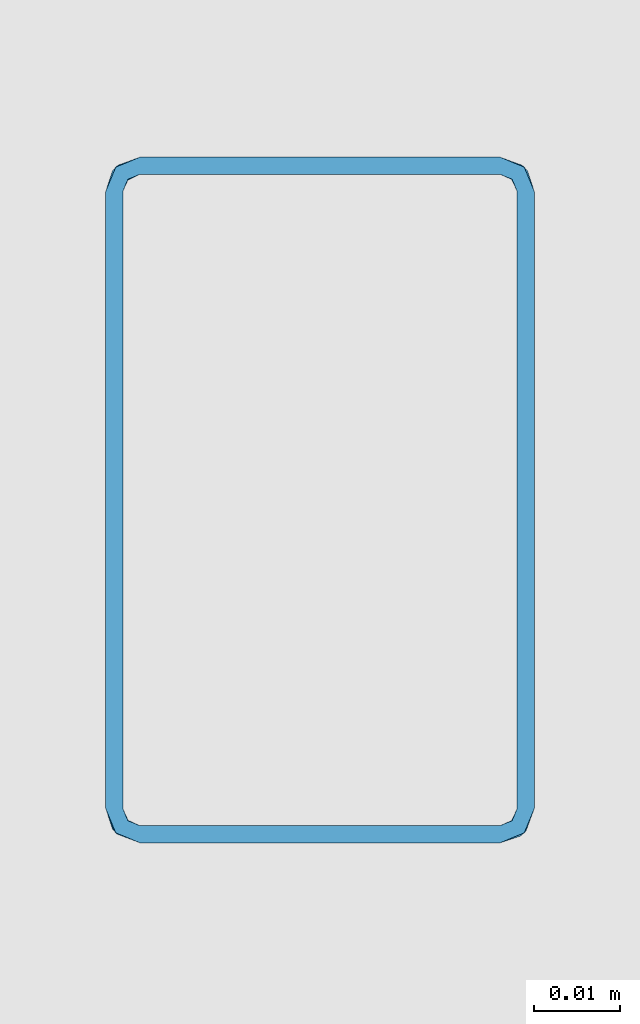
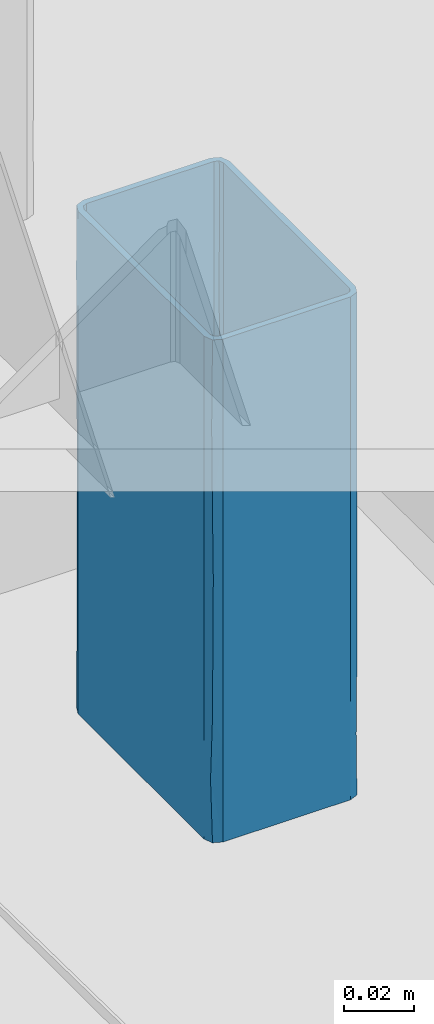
# One storey, part 152 of 186: 1 beam.
"""IFC4X3_ADD2 building model written with IfcOpenShell, lengths in millimetres."""

import ifcopenshell
import ifcopenshell.guid

model = None  # the IFC model being written
_history = None  # IfcOwnerHistory: only IFC2X3 demands one
_inside = {}  # id of a spatial element -> (the spatial element, [elements in it])
_under = {}  # id of a project, library or spatial element -> (it, [spatial elements below it])
_declared = {}  # id of a project -> (the project, [libraries it declares])
_typed = {}  # id of a type object -> (the type object, [elements of that type])
_made_of = {}  # id of a material, layer set ... -> (it, [elements and type objects made of it])


def new_model(schema):
    """Start an empty IFC model of exactly this schema.

    Asked for "IFC4X3", IfcOpenShell would pick the latest addendum, in which some entities
    have other attributes; the version numbers below select the first issue.
    IFC2X3 requires an IfcOwnerHistory on every rooted entity: one is made here for all.
    """
    global model, _history
    if schema == "IFC4X3":
        model = ifcopenshell.file(schema_version=(4, 3, 0, 0))
    else:
        model = ifcopenshell.file(schema=schema)
    _inside.clear()
    _under.clear()
    _declared.clear()
    _typed.clear()
    _made_of.clear()
    _history = None
    if model.schema == "IFC2X3":
        org = make("IfcOrganization", Name="unknown")
        user = make(
            "IfcPersonAndOrganization",
            ThePerson=make("IfcPerson", FamilyName="unknown"),
            TheOrganization=org,
        )
        app = make(
            "IfcApplication",
            ApplicationDeveloper=org,
            Version="unknown",
            ApplicationFullName="unknown",
            ApplicationIdentifier="unknown",
        )
        _history = make(
            "IfcOwnerHistory",
            OwningUser=user,
            OwningApplication=app,
            ChangeAction="ADDED",
            CreationDate=0,
        )
    return model


def make(cls, **values):
    """One entity of the class cls with the attributes given. An attribute that is None is left unset."""
    return model.create_entity(
        cls, **{name: value for name, value in values.items() if value is not None}
    )


def rooted(cls, **values):
    """An entity with a GlobalId (a new one), such as an element, a storey or a relation."""
    return make(cls, GlobalId=ifcopenshell.guid.new(), OwnerHistory=_history, **values)


def si_unit(unit_type, name, prefix=None):
    """IfcSIUnit, for example si_unit("LENGTHUNIT", "METRE", prefix="MILLI")."""
    return make("IfcSIUnit", UnitType=unit_type, Prefix=prefix, Name=name)


def assignment(units):
    """IfcUnitAssignment: the units of a project."""
    return None if units is None else make("IfcUnitAssignment", Units=units)


def point(xyz):
    """IfcCartesianPoint."""
    return None if xyz is None else make("IfcCartesianPoint", Coordinates=xyz)


def direction(xyz):
    """IfcDirection."""
    return None if xyz is None else make("IfcDirection", DirectionRatios=xyz)


def frame(location, z_axis=None, x_axis=None):
    """IfcAxis2Placement3D, a coordinate frame: its origin and axes. An axis left out is left unset."""
    return make(
        "IfcAxis2Placement3D",
        Location=point(location),
        Axis=direction(z_axis),
        RefDirection=direction(x_axis),
    )


def origin_with_axes():
    """The frame at (0, 0, 0) with the z axis (0, 0, 1) and the x axis (1, 0, 0) written out."""
    return frame((0.0, 0.0, 0.0), z_axis=(0.0, 0.0, 1.0), x_axis=(1.0, 0.0, 0.0))


def place(relative_to, where):
    """IfcLocalPlacement: puts the frame where relative to a parent placement (None: the world)."""
    return make(
        "IfcLocalPlacement", PlacementRelTo=relative_to, RelativePlacement=where
    )


def context(
    kind, dimensions, precision=None, world=None, true_north=None, identifier=None
):
    """IfcGeometricRepresentationContext, for example the 3D "Model" context."""
    return make(
        "IfcGeometricRepresentationContext",
        ContextIdentifier=identifier,
        ContextType=kind,
        CoordinateSpaceDimension=dimensions,
        Precision=precision,
        WorldCoordinateSystem=world,
        TrueNorth=true_north,
    )


def subcontext(parent, identifier, kind, view, scale=None):
    """IfcGeometricRepresentationSubContext, for example "Body" below "Model"."""
    return make(
        "IfcGeometricRepresentationSubContext",
        ContextIdentifier=identifier,
        ContextType=kind,
        ParentContext=parent,
        TargetScale=scale,
        TargetView=view,
    )


def project(units=None, contexts=None):
    """IfcProject with its units and contexts."""
    return rooted(
        "IfcProject",
        Name="project",
        RepresentationContexts=contexts,
        UnitsInContext=assignment(units),
    )


def spatial(cls, under=None, at=None, **own):
    """A site, building, storey or space (cls), placed at a placement, below another one or the project."""
    s = rooted(cls, ObjectPlacement=at, **own)
    if under is not None:
        _under.setdefault(under.id(), (under, []))[1].append(s)
    return s


def point_list(points):
    """IfcCartesianPointList2D or 3D."""
    cls = (
        "IfcCartesianPointList2D" if len(points[0]) == 2 else "IfcCartesianPointList3D"
    )
    return make(cls, CoordList=points)


def polygons(points, faces, closed=None, point_numbers=None):
    """IfcPolygonalFaceSet: a face is its outer loop, then its inner loops; points numbered from 1."""
    made = []
    for loops in faces:
        if len(loops) == 1:
            made.append(make("IfcIndexedPolygonalFace", CoordIndex=loops[0]))
        else:
            made.append(
                make(
                    "IfcIndexedPolygonalFaceWithVoids",
                    CoordIndex=loops[0],
                    InnerCoordIndices=loops[1:],
                )
            )
    return make(
        "IfcPolygonalFaceSet",
        Coordinates=point_list(points),
        Closed=closed,
        Faces=made,
        PnIndex=point_numbers,
    )


def shape(context_of_items, identifier, shape_type, items):
    """IfcShapeRepresentation: the items that make up one representation, for example the "Body"."""
    return make(
        "IfcShapeRepresentation",
        ContextOfItems=context_of_items,
        RepresentationIdentifier=identifier,
        RepresentationType=shape_type,
        Items=items,
    )


def made_of(thing, what):
    """Note that an element or type object is made of a material, layer set ...; save() writes the relation."""
    if what is not None:
        _made_of.setdefault(what.id(), (what, []))[1].append(thing)
    return thing


def element(
    cls,
    number,
    at=None,
    inside=None,
    cuts=None,
    type_object=None,
    material=None,
    context=None,
    identifier="Body",
    shape_type=None,
    held_by="IfcProductDefinitionShape",
    body=None,
    shapes=None,
    **own,
):
    """One element of the class cls, such as IfcWall. Its Tag is "e" and its number.

    at: its placement. inside: the storey or other place that contains it. cuts: it is an
    opening in that element (IfcRelVoidsElement). A single representation is given by context,
    identifier, shape_type and body (its items); several are given by shapes. held_by: the class
    of the entity that holds the representations. save() writes the other relations.
    """
    e = rooted(cls, Tag="e%d" % number, ObjectPlacement=at, **own)
    if body is not None:
        shapes = [shape(context, identifier, shape_type, body)]
    if shapes is not None:
        e.Representation = make(held_by, Representations=shapes)
    if inside is not None:
        _inside.setdefault(inside.id(), (inside, []))[1].append(e)
    if cuts is not None:
        rooted(
            "IfcRelVoidsElement", RelatingBuildingElement=cuts, RelatedOpeningElement=e
        )
    if type_object is not None:
        _typed.setdefault(type_object.id(), (type_object, []))[1].append(e)
    return made_of(e, material)


def aggregate(whole, parts):
    """IfcRelAggregates: a whole, such as a stair, and the parts it consists of."""
    return rooted("IfcRelAggregates", RelatingObject=whole, RelatedObjects=parts)


def save(model, path):
    """Write the relations noted so far, then the file.

    IfcRelAggregates (storeys below a building ...), IfcRelContainedInSpatialStructure (elements
    in a storey), IfcRelDefinesByType, IfcRelAssociatesMaterial and IfcRelDeclares: one each for
    every whole, place, type object, material and project.
    """
    for whole, parts in _under.values():
        aggregate(whole, parts)
    for where, things in _inside.values():
        rooted(
            "IfcRelContainedInSpatialStructure",
            RelatedElements=things,
            RelatingStructure=where,
        )
    for kind, things in _typed.values():
        rooted("IfcRelDefinesByType", RelatedObjects=things, RelatingType=kind)
    for what, things in _made_of.values():
        rooted("IfcRelAssociatesMaterial", RelatedObjects=things, RelatingMaterial=what)
    for by, libraries in _declared.values():
        rooted("IfcRelDeclares", RelatingContext=by, RelatedDefinitions=libraries)
    model.write(path)


model = new_model("IFC4X3_ADD2")

# Units and contexts
model_context = context("Model", 3, precision=1e-05, world=origin_with_axes(), true_north=direction((0.0, 1.0)))
body_context = subcontext(model_context, "Body", "Model", "MODEL_VIEW")
ifc_project = project(units=[si_unit("LENGTHUNIT", "METRE", prefix="MILLI"), si_unit("AREAUNIT", "SQUARE_METRE"), si_unit("VOLUMEUNIT", "CUBIC_METRE"), si_unit("PLANEANGLEUNIT", "RADIAN"), si_unit("TIMEUNIT", "SECOND"), si_unit("MASSUNIT", "GRAM")], contexts=[model_context])

# Site, building, storey
site_placement = place(None, origin_with_axes())
site = spatial("IfcSite", under=ifc_project, at=site_placement, Name="Site", CompositionType="ELEMENT")
building_placement = place(site_placement, origin_with_axes())
building = spatial("IfcBuilding", under=site, at=building_placement, Name="IFC Building Story")
storey_placement = place(building_placement, frame((0.0, 0.0, 4370.0), z_axis=(0.0, 0.0, 1.0), x_axis=(1.0, 0.0, 0.0)))
storey = spatial("IfcBuildingStorey", under=building, at=storey_placement, Name="ETAGE 10 (1)", Elevation=4370.0)

# Beam
beam_placement = place(storey_placement, frame((0.0, 0.0, -4370.0), z_axis=(0.0, 0.0, 1.0), x_axis=(1.0, 0.0, 0.0)))
element("IfcBeam", 1, at=beam_placement, inside=storey, Name="PS9", ObjectType="K50*80*2", context=body_context, shape_type="Tessellation", body=[
    polygons([(40033.18902108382, -161.029537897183, 7310.001152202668), (40031.18902108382, -161.029537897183, 7310.001152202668), (40033.77480752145, -162.4437514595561, 7310.001152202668), (40031.18902108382, -89.02953789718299, 7310.001152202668), (40033.18902108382, -89.02953789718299, 7310.001152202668), (40033.77480752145, -87.61532433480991, 7310.001152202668), (40032.36059395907, -86.20111077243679, 7310.001152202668), (40035.18902108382, -85.02953789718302, 7310.001152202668), (40035.18902108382, -87.029537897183, 7310.001152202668), (40077.18902108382, -87.029537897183, 7310.001152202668), (40077.18902108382, -85.02953789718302, 7310.001152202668), (40078.6032346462, -87.61532433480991, 7310.001152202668), (40080.01744820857, -86.20111077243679, 7310.001152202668), (40081.18902108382, -89.02953789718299, 7310.001152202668), (40079.18902108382, -89.02953789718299, 7310.001152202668), (40079.18902108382, -161.029537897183, 7310.001152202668), (40081.18902108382, -161.029537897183, 7310.001152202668), (40078.6032346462, -162.4437514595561, 7310.001152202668), (40080.01744820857, -163.8579650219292, 7310.001152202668), (40077.18902108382, -165.029537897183, 7310.001152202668), (40077.18902108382, -163.029537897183, 7310.001152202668), (40035.18902108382, -165.029537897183, 7310.001152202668), (40035.18902108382, -163.029537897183, 7310.001152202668), (40032.36059395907, -163.8579650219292, 7310.001152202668), (40079.18902108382, -161.029537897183, 7134.601152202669), (40081.18902108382, -161.029537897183, 7134.601152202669), (40078.6032346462, -162.4437514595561, 7134.601152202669), (40081.18902108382, -89.02953789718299, 7134.601152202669), (40079.18902108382, -89.02953789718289, 7134.601152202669), (40078.6032346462, -87.61532433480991, 7134.601152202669), (40080.01744820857, -86.20111077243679, 7134.601152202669), (40077.18902108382, -85.02953789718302, 7134.601152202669), (40077.18902108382, -87.029537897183, 7134.601152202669), (40035.18902108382, -87.029537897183, 7134.601152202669), (40035.18902108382, -85.02953789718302, 7134.601152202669), (40033.77480752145, -87.61532433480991, 7134.601152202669), (40032.36059395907, -86.20111077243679, 7134.601152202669), (40031.18902108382, -89.02953789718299, 7134.601152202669), (40033.18902108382, -89.02953789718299, 7134.601152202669), (40033.18902108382, -161.029537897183, 7134.601152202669), (40031.18902108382, -161.029537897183, 7134.601152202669), (40033.77480752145, -162.4437514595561, 7134.601152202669), (40032.36059395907, -163.8579650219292, 7134.601152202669), (40035.18902108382, -165.029537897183, 7134.601152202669), (40035.18902108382, -163.029537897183, 7134.601152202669), (40077.18902108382, -165.029537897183, 7134.601152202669), (40077.18902108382, -163.029537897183, 7134.601152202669), (40080.01744820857, -163.8579650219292, 7134.601152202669), (40081.18902108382, -161.029537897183, 7292.542629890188), (40081.18902108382, -161.029537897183, 7266.151152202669), (40081.18902108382, -161.029537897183, 7244.226152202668), (40081.18902108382, -161.029537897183, 7222.30115220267), (40081.18902108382, -161.029537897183, 7200.376152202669), (40081.18902108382, -161.029537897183, 7178.451152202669), (40081.18902108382, -161.029537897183, 7152.05967451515), (40081.18902108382, -89.02953789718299, 7169.518198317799), (40081.18902108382, -89.02953789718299, 7187.384107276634), (40081.18902108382, -89.02953789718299, 7213.775584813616), (40081.18902108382, -89.02953789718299, 7240.1670623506), (40081.18902108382, -89.02953789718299, 7257.625584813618), (40081.18902108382, -89.02953789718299, 7275.084107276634), (40080.10473245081, -86.2911757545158, 7178.451154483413), (40077.18902108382, -85.02953789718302, 7200.376152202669), (40079.88767482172, -86.0770359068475, 7211.338654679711), (40077.18902108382, -85.02953789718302, 7178.451152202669), (40080.412865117, -86.66166339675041, 7156.44724682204), (40077.18902108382, -85.02953789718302, 7152.059675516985), (40079.83891352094, -86.0331951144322, 7279.346891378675), (40077.18902108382, -85.02953789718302, 7222.30115220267), (40077.18902108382, -85.02953789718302, 7292.542628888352), (40079.82499126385, -86.0209400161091, 7235.928986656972), (40079.7718907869, -85.97523206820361, 7257.639654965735), (40077.18902108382, -85.02953789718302, 7266.151152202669), (40077.18902108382, -85.02953789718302, 7244.226152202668), (40035.18902108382, -85.02953789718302, 7152.05967493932), (40035.18902108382, -85.02953789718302, 7178.451152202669), (40035.18902108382, -85.02953789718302, 7200.376152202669), (40035.18902108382, -85.02953789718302, 7222.30115220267), (40035.18902108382, -85.02953789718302, 7244.226152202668), (40035.18902108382, -85.02953789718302, 7266.151152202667), (40035.18902108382, -85.02953789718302, 7292.542629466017), (40031.18902108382, -89.02953789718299, 7169.518197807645), (40032.53912872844, -86.0331950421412, 7165.255417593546), (40032.27330972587, -86.2911757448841, 7266.151153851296), (40031.96517708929, -86.66166334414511, 7288.155059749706), (40032.49036732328, -86.0770359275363, 7233.263654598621), (40031.18902108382, -89.02953789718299, 7257.218197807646), (40031.18902108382, -89.02953789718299, 7275.084106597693), (40032.55305081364, -86.0209400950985, 7208.673324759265), (40031.18902108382, -89.02953789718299, 7204.435243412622), (40031.18902108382, -89.02953789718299, 7230.826720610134), (40031.18902108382, -89.02953789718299, 7186.976720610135), (40032.60615109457, -85.9752323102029, 7186.96265531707), (40031.18902108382, -161.029537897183, 7169.518197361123), (40031.18902108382, -161.029537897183, 7195.909674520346), (40031.18902108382, -161.029537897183, 7222.30115220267), (40031.18902108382, -161.029537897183, 7244.226152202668), (40031.18902108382, -161.029537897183, 7266.151152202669), (40031.18902108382, -161.029537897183, 7292.542629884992), (40032.19267832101, -163.6794303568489, 7279.346891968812), (40032.33750844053, -163.8346895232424, 7252.757770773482), (40035.18902108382, -165.029537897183, 7275.084106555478), (40032.36059383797, -163.8579649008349, 7178.451156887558), (40031.97546159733, -163.4113513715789, 7156.526155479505), (40035.18902108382, -165.029537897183, 7169.518197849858), (40035.18902108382, -165.029537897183, 7187.384105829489), (40032.53484653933, -164.0220882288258, 7226.971325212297), (40032.44217950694, -163.9372623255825, 7202.816801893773), (40035.18902108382, -165.029537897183, 7213.775584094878), (40035.18902108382, -165.029537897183, 7240.167060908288), (40077.18902108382, -165.029537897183, 7169.518197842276), (40077.18902108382, -165.029537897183, 7187.38410656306), (40077.18902108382, -165.029537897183, 7213.775583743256), (40077.18902108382, -165.029537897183, 7240.167060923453), (40077.18902108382, -165.029537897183, 7257.625583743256), (40077.18902108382, -165.029537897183, 7275.084106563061), (40079.92738319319, -163.9452492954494, 7178.451154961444), (40080.141523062, -163.7281916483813, 7211.338655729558), (40079.55689557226, -164.2533819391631, 7156.447247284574), (40080.18536385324, -163.679430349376, 7279.346891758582), (40080.19761894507, -163.6655080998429, 7235.928987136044), (40080.24332688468, -163.6124076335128, 7257.639655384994), (40077.18902108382, -163.029537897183, 7260.620992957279), (40078.60323460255, -162.4437515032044, 7266.79351382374), (40078.60323461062, -162.4437514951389, 7253.588146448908), (40078.60803615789, -162.4389335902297, 7166.185490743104), (40078.68447855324, -162.3575465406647, 7153.118713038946), (40077.18902108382, -163.029537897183, 7153.761072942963), (40079.18902108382, -161.029537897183, 7200.376152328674), (40079.18902108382, -161.029537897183, 7189.413652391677), (40078.65155139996, -162.3937244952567, 7194.894904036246), (40078.64161718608, -162.4042977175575, 7229.758395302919), (40079.18902108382, -161.029537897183, 7222.30115220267), (40078.49278509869, -162.5461787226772, 7218.574708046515), (40077.18902108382, -163.029537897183, 7235.930913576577), (40078.52998134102, -162.5133928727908, 7241.603315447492), (40077.18902108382, -163.029537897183, 7172.920993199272), (40079.18902108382, -161.029537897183, 7146.94619185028), (40079.18902108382, -161.029537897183, 7297.656112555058), (40079.18902108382, -161.029537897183, 7260.620993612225), (40077.18902108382, -163.029537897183, 7272.96603264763), (40078.5552384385, -162.4901713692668, 7279.138553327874), (40078.54752521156, -162.4973480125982, 7177.909609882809), (40079.18902108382, -161.029537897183, 7178.451152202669), (40077.18902108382, -163.029537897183, 7297.656112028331), (40078.6032346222, -162.4437514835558, 7291.483592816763), (40077.18902108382, -163.029537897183, 7285.31107233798), (40079.18902108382, -161.029537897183, 7272.966033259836), (40079.18902108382, -161.029537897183, 7285.311072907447), (40079.18902108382, -161.029537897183, 7159.29123149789), (40079.18902108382, -161.029537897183, 7241.461072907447), (40077.18902108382, -163.029537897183, 7248.275953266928), (40078.68034286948, -162.3621891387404, 7207.451873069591), (40077.18902108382, -163.029537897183, 7192.08091345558), (40077.18902108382, -163.029537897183, 7211.240834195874), (40079.18902108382, -161.029537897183, 7211.338652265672), (40077.18902108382, -163.029537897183, 7223.585873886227), (40035.18902108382, -163.029537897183, 7146.94619214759), (40035.18902108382, -163.029537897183, 7159.29123153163), (40035.18902108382, -163.029537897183, 7178.451151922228), (40035.18902108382, -163.029537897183, 7189.413651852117), (40035.18902108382, -163.029537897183, 7200.376151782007), (40035.18902108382, -163.029537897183, 7211.338651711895), (40035.18902108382, -163.029537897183, 7222.30115220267), (40035.18902108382, -163.029537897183, 7233.26365269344), (40035.18902108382, -163.029537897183, 7244.226152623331), (40035.18902108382, -163.029537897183, 7255.188652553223), (40035.18902108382, -163.029537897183, 7266.151152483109), (40035.18902108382, -163.029537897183, 7285.311073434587), (40035.18902108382, -163.029537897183, 7297.65611281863), (40033.67238028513, -162.3333019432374, 7226.027598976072), (40033.81426129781, -162.4821340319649, 7214.843911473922), (40033.18902108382, -161.029537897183, 7221.016429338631), (40033.77962538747, -162.4485529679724, 7278.416816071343), (40033.72121098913, -162.3880420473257, 7266.692697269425), (40033.18902108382, -161.029537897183, 7271.681310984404), (40033.86101241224, -162.5249953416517, 7291.483593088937), (40033.18902108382, -161.029537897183, 7290.841231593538), (40033.7748075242, -162.4437514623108, 7166.324080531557), (40033.77480753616, -162.4437514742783, 7153.118712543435), (40033.18902108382, -161.029537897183, 7159.291232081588), (40033.18902108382, -161.029537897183, 7146.94619263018), (40033.18902108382, -161.029537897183, 7208.671389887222), (40033.71372270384, -162.3799062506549, 7202.829400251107), (40033.82483451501, -162.4920682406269, 7249.707403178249), (40033.85636986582, -162.5208597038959, 7237.150434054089), (40033.18902108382, -161.029537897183, 7171.636271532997), (40033.8431372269, -162.508928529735, 7183.932403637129), (40033.18902108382, -161.029537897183, 7233.361469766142), (40033.18902108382, -161.029537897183, 7252.521390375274), (40033.18902108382, -161.029537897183, 7183.981310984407), (40033.18902108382, -161.029537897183, 7196.326350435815), (40033.18902108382, -89.02953789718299, 7146.946190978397), (40033.18902108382, -89.02953789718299, 7156.526152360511), (40033.18902108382, -89.02953789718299, 7167.488652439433), (40033.18902108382, -89.02953789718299, 7178.451152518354), (40033.18902108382, -89.02953789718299, 7189.413652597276), (40033.18902108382, -89.02953789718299, 7200.376152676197), (40033.18902108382, -89.02953789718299, 7211.338652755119), (40033.18902108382, -89.02953789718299, 7222.301152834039), (40033.18902108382, -89.02953789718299, 7233.263652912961), (40033.18902108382, -89.02953789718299, 7244.226152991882), (40033.18902108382, -89.02953789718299, 7255.188653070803), (40033.18902108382, -89.02953789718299, 7266.151153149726), (40033.18902108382, -89.02953789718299, 7285.31107338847), (40033.18902108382, -89.02953789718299, 7297.656112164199), (40033.68074525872, -87.71610573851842, 7185.181957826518), (40033.7133936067, -87.6795291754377, 7172.969903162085), (40033.76446295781, -87.6257451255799, 7228.04246928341), (40033.86422714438, -87.53123184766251, 7240.591089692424), (40035.18902108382, -87.029537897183, 7159.291231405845), (40033.60877604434, -87.80364001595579, 7162.309226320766), (40033.7748075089, -87.6153243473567, 7151.736172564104), (40033.69356363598, -87.7015292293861, 7291.483593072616), (40035.18902108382, -87.029537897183, 7290.841231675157), (40035.18902108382, -87.029537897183, 7171.636271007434), (40035.18902108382, -87.029537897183, 7183.981310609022), (40033.85141847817, -87.5426554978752, 7202.498871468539), (40035.18902108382, -87.029537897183, 7146.946191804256), (40033.77000600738, -87.6201422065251, 7278.416816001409), (40033.77995815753, -87.6101923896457, 7215.571120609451), (40035.18902108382, -87.029537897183, 7208.671389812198), (40035.18902108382, -87.029537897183, 7196.32635021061), (40035.18902108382, -87.029537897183, 7221.01643049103), (40035.18902108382, -87.029537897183, 7233.361470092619), (40035.18902108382, -87.029537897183, 7271.681311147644), (40033.85788155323, -87.5368666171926, 7260.669902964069), (40035.18902108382, -87.029537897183, 7252.521390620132), (40077.18902108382, -87.029537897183, 7146.946191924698), (40077.18902108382, -87.029537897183, 7159.291231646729), (40077.18902108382, -87.029537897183, 7171.636271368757), (40077.18902108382, -87.029537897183, 7183.981311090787), (40077.18902108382, -87.029537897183, 7196.326350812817), (40077.18902108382, -87.029537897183, 7208.671390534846), (40077.18902108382, -87.029537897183, 7221.016430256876), (40077.18902108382, -87.029537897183, 7233.361469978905), (40077.18902108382, -87.029537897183, 7252.521390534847), (40077.18902108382, -87.029537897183, 7271.681311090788), (40077.18902108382, -87.029537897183, 7290.841231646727), (40078.60803617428, -87.62014222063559, 7278.416816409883), (40078.68447854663, -87.7015292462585, 7291.483593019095), (40078.52998143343, -87.5456830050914, 7202.998993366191), (40078.64161728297, -87.65477817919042, 7214.843912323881), (40078.60323460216, -87.6153242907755, 7153.118715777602), (40078.60323458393, -87.6153242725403, 7166.324081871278), (40079.18902108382, -89.02953789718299, 7159.291231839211), (40079.18902108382, -89.02953789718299, 7244.226152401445), (40079.18902108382, -89.02953789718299, 7255.188652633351), (40078.65155147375, -87.6653513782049, 7249.707403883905), (40079.18902108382, -89.02953789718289, 7297.656112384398), (40079.18902108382, -89.02953789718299, 7146.946192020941), (40078.49278527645, -87.51289722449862, 7226.027600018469), (40078.5475252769, -87.5617278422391, 7266.692698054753), (40079.18902108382, -89.02953789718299, 7266.151152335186), (40079.18902108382, -89.02953789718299, 7171.636271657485), (40078.66498249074, -87.67989426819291, 7178.287654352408), (40079.18902108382, -89.02953789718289, 7285.311072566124), (40078.60872344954, -87.62083452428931, 7190.254039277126), (40078.68034291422, -87.69688670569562, 7237.150435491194), (40079.18902108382, -89.02953789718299, 7233.263652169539), (40079.18902108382, -89.02953789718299, 7222.301152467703), (40079.18902108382, -89.02953789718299, 7203.141232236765), (40079.18902108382, -89.02953789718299, 7183.981311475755)], [[[1, 2, 3]], [[2, 1, 4]], [[5, 4, 1]], [[6, 4, 5]], [[7, 4, 6]], [[6, 8, 7]], [[6, 9, 8]], [[8, 9, 10]], [[10, 11, 8]], [[10, 12, 11]], [[11, 12, 13]], [[14, 13, 12]], [[14, 12, 15]], [[14, 15, 16]], [[16, 17, 14]], [[18, 17, 16]], [[17, 18, 19]], [[18, 20, 19]], [[21, 20, 18]], [[20, 21, 22]], [[23, 22, 21]], [[3, 22, 23]], [[22, 3, 24]], [[3, 2, 24]], [[25, 26, 27]], [[26, 25, 28]], [[29, 28, 25]], [[30, 28, 29]], [[31, 28, 30]], [[30, 32, 31]], [[30, 33, 32]], [[32, 33, 34]], [[34, 35, 32]], [[34, 36, 35]], [[35, 36, 37]], [[38, 37, 36]], [[38, 36, 39]], [[38, 39, 40]], [[40, 41, 38]], [[42, 41, 40]], [[41, 42, 43]], [[42, 44, 43]], [[45, 44, 42]], [[44, 45, 46]], [[47, 46, 45]], [[27, 46, 47]], [[46, 27, 48]], [[27, 26, 48]], [[55, 26, 28]], [[28, 56, 54]], [[28, 54, 55]], [[56, 57, 53]], [[56, 53, 54]], [[57, 58, 52]], [[57, 52, 53]], [[58, 59, 51]], [[58, 51, 52]], [[59, 60, 50]], [[59, 50, 51]], [[61, 14, 49]], [[61, 49, 50]], [[50, 60, 61]], [[14, 17, 49]], [[62, 63, 64]], [[65, 66, 67]], [[14, 61, 68]], [[64, 63, 69]], [[70, 11, 13]], [[31, 32, 67]], [[62, 56, 66]], [[71, 59, 58]], [[57, 56, 62]], [[62, 66, 65]], [[13, 14, 68]], [[60, 59, 72, 61]], [[28, 31, 66]], [[58, 64, 71]], [[64, 57, 62]], [[73, 70, 68]], [[62, 65, 63]], [[64, 69, 71]], [[64, 58, 57]], [[71, 69, 74]], [[28, 66, 56]], [[67, 66, 31]], [[13, 68, 70]], [[71, 72, 59]], [[68, 72, 73]], [[72, 68, 61]], [[72, 74, 73]], [[74, 72, 71]], [[67, 32, 35]], [[67, 35, 75]], [[75, 76, 65]], [[75, 65, 67]], [[76, 77, 63]], [[76, 63, 65]], [[77, 78, 69]], [[77, 69, 63]], [[78, 79, 74]], [[78, 74, 69]], [[79, 80, 73]], [[79, 73, 74]], [[80, 81, 70]], [[80, 70, 73]], [[81, 8, 11]], [[81, 11, 70]], [[38, 82, 83]], [[84, 85, 80]], [[86, 84, 79]], [[87, 88, 84]], [[86, 79, 78]], [[80, 85, 81]], [[84, 88, 85]], [[37, 38, 83]], [[84, 80, 79]], [[89, 90, 91]], [[92, 90, 93, 82]], [[4, 7, 85]], [[91, 86, 89]], [[75, 83, 76]], [[86, 87, 84]], [[75, 35, 37]], [[7, 8, 81]], [[86, 78, 89]], [[86, 91, 87]], [[89, 78, 77]], [[4, 85, 88]], [[81, 85, 7]], [[37, 83, 75]], [[89, 93, 90]], [[83, 93, 76]], [[93, 83, 82]], [[93, 77, 76]], [[77, 93, 89]], [[82, 38, 41]], [[82, 41, 94]], [[94, 95, 92]], [[94, 92, 82]], [[95, 90, 92]], [[95, 96, 91]], [[95, 91, 90]], [[97, 98, 87]], [[87, 91, 96]], [[87, 96, 97]], [[98, 88, 87]], [[99, 2, 4]], [[4, 88, 98]], [[4, 98, 99]], [[99, 98, 100]], [[101, 102, 100]], [[103, 94, 104]], [[22, 24, 100]], [[43, 104, 41]], [[103, 95, 94]], [[105, 106, 103]], [[97, 107, 101]], [[24, 99, 100]], [[44, 105, 104]], [[108, 107, 96]], [[103, 104, 105]], [[108, 106, 109]], [[107, 108, 109]], [[110, 107, 109]], [[24, 2, 99]], [[41, 104, 94]], [[104, 43, 44]], [[101, 107, 110]], [[108, 96, 95]], [[102, 101, 110]], [[97, 96, 107]], [[95, 103, 108]], [[106, 108, 103]], [[101, 100, 98]], [[100, 102, 22]], [[101, 98, 97]], [[105, 44, 46]], [[105, 46, 111]], [[111, 112, 106]], [[111, 106, 105]], [[112, 113, 109]], [[112, 109, 106]], [[113, 114, 110]], [[113, 110, 109]], [[115, 116, 102]], [[102, 110, 114]], [[102, 114, 115]], [[116, 20, 22]], [[116, 22, 102]], [[117, 53, 118]], [[54, 119, 55]], [[20, 116, 120]], [[118, 53, 52]], [[49, 17, 19]], [[48, 26, 55]], [[117, 111, 119]], [[121, 114, 113]], [[112, 111, 117]], [[117, 119, 54]], [[19, 20, 120]], [[115, 114, 122, 116]], [[46, 48, 119]], [[113, 118, 121]], [[118, 112, 117]], [[50, 49, 120]], [[117, 54, 53]], [[118, 52, 121]], [[118, 113, 112]], [[121, 52, 51]], [[46, 119, 111]], [[55, 119, 48]], [[19, 120, 49]], [[121, 122, 114]], [[120, 122, 50]], [[122, 120, 116]], [[122, 51, 50]], [[51, 122, 121]], [[123, 124, 125]], [[126, 127, 128]], [[129, 130, 131]], [[132, 133, 134]], [[132, 135, 136]], [[126, 128, 137]], [[138, 25, 27]], [[18, 16, 139]], [[27, 127, 138]], [[125, 124, 140]], [[141, 142, 124]], [[143, 144, 126]], [[141, 124, 123]], [[145, 146, 147]], [[148, 142, 149]], [[127, 27, 47]], [[138, 127, 150]], [[145, 21, 18]], [[146, 18, 139]], [[18, 146, 145]], [[142, 146, 149]], [[142, 141, 147]], [[149, 146, 139]], [[132, 151, 133]], [[152, 123, 125]], [[125, 140, 151]], [[126, 150, 127]], [[47, 128, 127]], [[126, 144, 150]], [[153, 131, 154]], [[148, 140, 124]], [[124, 142, 148]], [[146, 142, 147]], [[130, 144, 143]], [[135, 152, 136]], [[143, 126, 137]], [[155, 153, 154]], [[143, 137, 154]], [[153, 129, 131]], [[143, 131, 130]], [[154, 131, 143]], [[156, 129, 153]], [[132, 134, 157]], [[135, 132, 157]], [[155, 134, 153]], [[151, 132, 136]], [[136, 125, 151]], [[125, 136, 152]], [[157, 134, 155]], [[133, 156, 134]], [[156, 153, 134]], [[158, 159, 128]], [[128, 47, 45]], [[128, 45, 158]], [[159, 160, 137]], [[159, 137, 128]], [[160, 161, 154]], [[160, 154, 137]], [[162, 163, 155]], [[162, 155, 154]], [[154, 161, 162]], [[163, 164, 157]], [[163, 157, 155]], [[164, 165, 135]], [[164, 135, 157]], [[165, 166, 152]], [[165, 152, 135]], [[166, 167, 123]], [[166, 123, 152]], [[167, 168, 141]], [[167, 141, 123]], [[168, 169, 147]], [[168, 147, 141]], [[169, 170, 145]], [[169, 145, 147]], [[170, 23, 21]], [[170, 21, 145]], [[171, 172, 173]], [[174, 175, 176]], [[158, 45, 42]], [[3, 23, 170]], [[177, 1, 3]], [[178, 1, 177]], [[179, 180, 181]], [[182, 180, 42]], [[183, 172, 184]], [[169, 174, 177]], [[185, 166, 186]], [[169, 177, 170]], [[179, 187, 188]], [[40, 182, 42]], [[179, 181, 187]], [[159, 180, 179]], [[42, 180, 158]], [[182, 181, 180]], [[177, 174, 178]], [[180, 159, 158]], [[179, 160, 159]], [[179, 188, 160]], [[173, 189, 171]], [[170, 177, 3]], [[176, 178, 174]], [[168, 175, 174]], [[174, 169, 168]], [[175, 190, 176]], [[185, 186, 190]], [[190, 175, 185]], [[168, 167, 175]], [[167, 185, 175]], [[185, 167, 166]], [[189, 190, 186]], [[172, 183, 173]], [[186, 165, 171]], [[161, 160, 188]], [[171, 165, 164]], [[172, 163, 184]], [[191, 192, 188, 187]], [[162, 161, 184, 163]], [[184, 188, 192]], [[161, 188, 184]], [[192, 183, 184]], [[172, 171, 164]], [[186, 166, 165]], [[186, 171, 189]], [[172, 164, 163]], [[182, 40, 39]], [[182, 39, 193]], [[193, 194, 181]], [[193, 181, 182]], [[194, 195, 187]], [[194, 187, 181]], [[196, 197, 191]], [[191, 187, 195]], [[191, 195, 196]], [[197, 198, 192]], [[197, 192, 191]], [[198, 199, 183]], [[198, 183, 192]], [[199, 200, 173]], [[199, 173, 183]], [[200, 201, 189]], [[200, 189, 173]], [[202, 203, 190]], [[190, 189, 201]], [[190, 201, 202]], [[203, 204, 176]], [[203, 176, 190]], [[204, 205, 178]], [[204, 178, 176]], [[206, 5, 1]], [[206, 1, 178]], [[178, 205, 206]], [[207, 196, 208]], [[201, 209, 210]], [[211, 212, 213]], [[214, 9, 6]], [[215, 9, 214]], [[216, 217, 208]], [[207, 218, 197]], [[36, 219, 213]], [[205, 220, 214]], [[200, 221, 209]], [[205, 214, 206]], [[212, 195, 194]], [[193, 36, 213, 194]], [[193, 39, 36]], [[6, 5, 206]], [[214, 220, 215]], [[36, 34, 219]], [[213, 219, 211]], [[195, 212, 208]], [[195, 208, 196]], [[217, 207, 208]], [[211, 216, 212]], [[222, 221, 218]], [[198, 197, 218, 199]], [[223, 218, 207]], [[222, 218, 223]], [[207, 217, 223]], [[221, 199, 218]], [[224, 225, 209]], [[221, 224, 209]], [[206, 214, 6]], [[226, 215, 220]], [[226, 220, 227]], [[220, 205, 204]], [[202, 201, 210, 203]], [[203, 227, 204]], [[221, 222, 224]], [[227, 210, 228]], [[210, 209, 225]], [[210, 225, 228]], [[210, 227, 203]], [[204, 227, 220]], [[227, 228, 226]], [[216, 208, 212]], [[213, 212, 194]], [[197, 196, 207]], [[201, 200, 209]], [[221, 200, 199]], [[219, 34, 33]], [[219, 33, 229]], [[229, 230, 211]], [[229, 211, 219]], [[230, 231, 216]], [[230, 216, 211]], [[231, 232, 217]], [[231, 217, 216]], [[232, 233, 223]], [[232, 223, 217]], [[233, 234, 222]], [[233, 222, 223]], [[234, 235, 224]], [[234, 224, 222]], [[235, 236, 225]], [[235, 225, 224]], [[236, 237, 228]], [[236, 228, 225]], [[237, 238, 226]], [[237, 226, 228]], [[238, 239, 215]], [[238, 215, 226]], [[239, 10, 9]], [[239, 9, 215]], [[240, 241, 239]], [[242, 243, 234]], [[230, 229, 244]], [[245, 244, 246]], [[234, 243, 235]], [[247, 248, 249]], [[250, 15, 12]], [[29, 251, 30]], [[239, 238, 240]], [[252, 235, 243]], [[12, 241, 250]], [[253, 254, 240]], [[245, 255, 256]], [[30, 244, 229]], [[241, 12, 10]], [[250, 241, 257]], [[229, 33, 30]], [[251, 246, 244]], [[30, 251, 244]], [[230, 244, 245]], [[231, 230, 245]], [[256, 258, 232]], [[240, 257, 241]], [[10, 239, 241]], [[240, 254, 257]], [[259, 249, 237]], [[248, 254, 253]], [[232, 231, 256]], [[245, 246, 255]], [[253, 240, 238]], [[236, 259, 237]], [[253, 238, 237]], [[259, 247, 249]], [[253, 249, 248]], [[237, 249, 253]], [[260, 247, 259]], [[261, 252, 243]], [[243, 262, 261]], [[236, 252, 259]], [[242, 258, 262]], [[262, 243, 242]], [[263, 262, 258]], [[242, 233, 258]], [[233, 232, 258]], [[242, 234, 233]], [[256, 263, 258]], [[263, 256, 255]], [[231, 245, 256]], [[235, 252, 236]], [[261, 260, 252]], [[260, 259, 252]], [[251, 29, 25]], [[251, 25, 138]], [[138, 150, 246]], [[138, 246, 251]], [[150, 144, 255]], [[150, 255, 246]], [[144, 130, 263]], [[144, 263, 255]], [[130, 129, 262]], [[130, 262, 263]], [[156, 133, 261]], [[156, 261, 262]], [[262, 129, 156]], [[133, 151, 260]], [[133, 260, 261]], [[151, 247, 260]], [[151, 140, 248]], [[151, 248, 247]], [[140, 254, 248]], [[148, 149, 257]], [[148, 257, 254]], [[254, 140, 148]], [[149, 139, 250]], [[149, 250, 257]], [[139, 16, 15]], [[139, 15, 250]]]),
])

save(model, "model.ifc")
